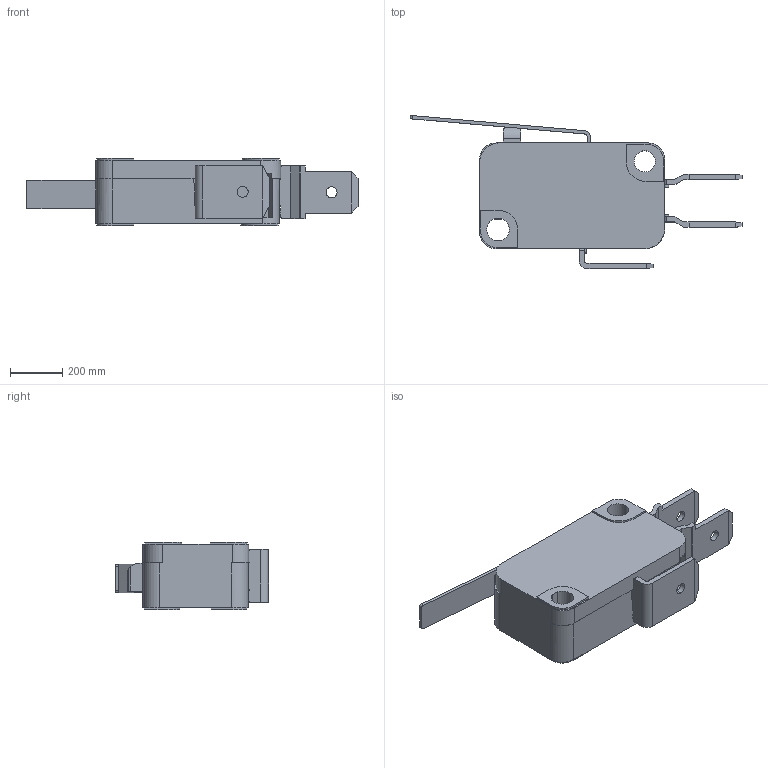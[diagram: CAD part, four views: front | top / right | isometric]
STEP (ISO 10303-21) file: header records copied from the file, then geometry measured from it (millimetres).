
FILE_DESCRIPTION((''),'2;1');
FILE_NAME('PRT0006','2016-06-12T',('Administrator'),(''),'PRO/ENGINEER BY PARAMETRIC TECHNOLOGY CORPORATION, 2012360','PRO/ENGINEER BY PARAMETRIC TECHNOLOGY CORPORATION, 2012360','');
FILE_SCHEMA(('CONFIG_CONTROL_DESIGN'));
Length unit declared in the file: inch
Products named in the file (1): PRT0006
Bounding box: 1275.51 x 588.24 x 259.08 mm (x, y, z)
Volume: 63956663.7 mm3; surface area: 2671557.6 mm2
Topology: 1 solids, 5 shells, 478 faces, 1348 edges, 876 vertices
Faces by surface type: plane 376, cylinder 94, torus 4, cone 4
Entity records: 15441 total; most frequent: CARTESIAN_POINT 2882, ORIENTED_EDGE 2696, DIRECTION 2479, EDGE_CURVE 1348, VECTOR 1097, LINE 1097, VERTEX_POINT 876, AXIS2_PLACEMENT_3D 691
